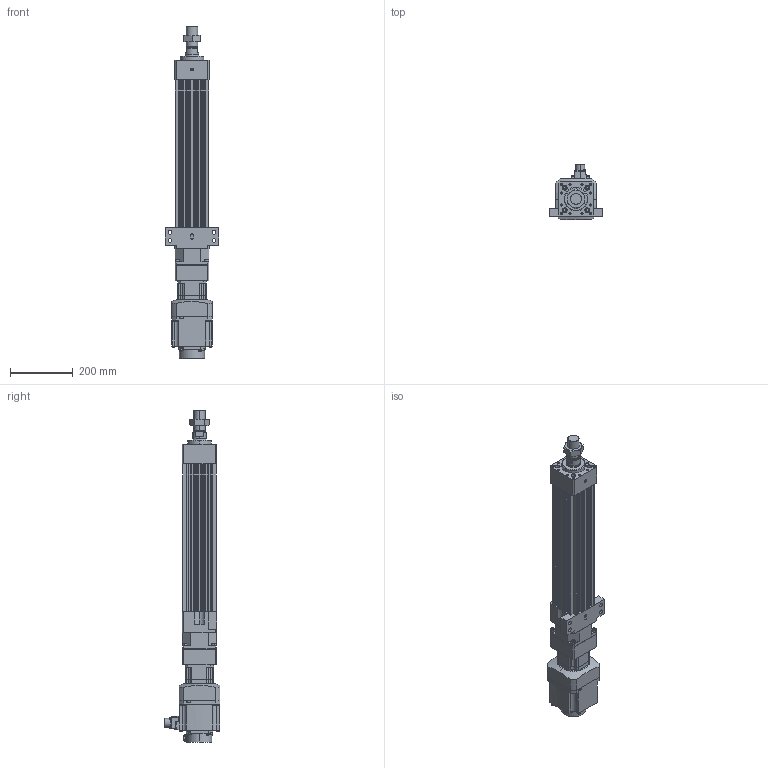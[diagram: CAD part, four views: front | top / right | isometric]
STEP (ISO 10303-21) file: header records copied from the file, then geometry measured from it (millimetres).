
FILE_DESCRIPTION (( 'STEP AP203' ), '1' );
FILE_NAME ('HES110NS(HS)-S300-W010G00-M-FFC.STEP', '2023-01-27T06:26:32', ( 'tms' ), ( '' ), 'SwSTEP 2.0', 'SolidWorks 2013', '' );
FILE_SCHEMA (( 'CONFIG_CONTROL_DESIGN' ));
Length unit declared in the file: millimetre
Products named in the file (8): HG-SR102; HES110NS(HS)-S300-W010G00-M-FFC; HES110-S300-G090-FFC; P0401301004; M36X1.5P; HES110 ROD M ST300; AB0901; AB090-003[HG-SR102B]
Assembly tree (7 placements, depth 3):
  HES110NS(HS)-S300-W010G00-M-FFC
    HES110-S300-G090-FFC
    HES110 ROD M ST300
    M36X1.5P
    AB090-003[HG-SR102B]
      AB0901
      P0401301004
    HG-SR102
Bounding box: 170 x 177.49 x 1058.5 mm (x, y, z)
Volume: 6879558.2 mm3; surface area: 918984.5 mm2
Topology: 4 solids, 15 shells, 1217 faces, 3075 edges, 1984 vertices
Faces by surface type: plane 556, cylinder 547, cone 102, bspline 8, torus 4
Entity records: 38420 total; most frequent: CARTESIAN_POINT 7442, DIRECTION 6626, ORIENTED_EDGE 6054, EDGE_CURVE 3037, AXIS2_PLACEMENT_3D 2439, VERTEX_POINT 1984, LINE 1748, VECTOR 1748
